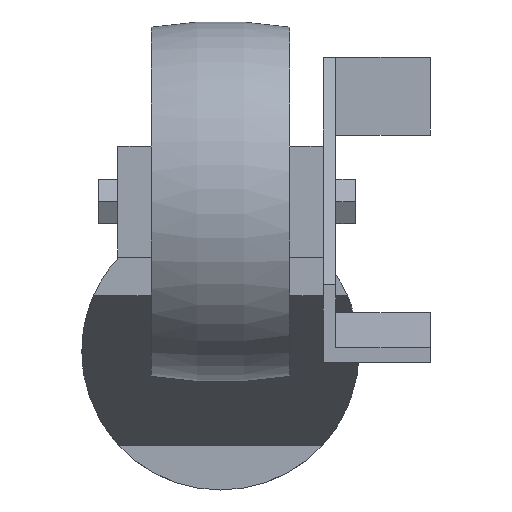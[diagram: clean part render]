
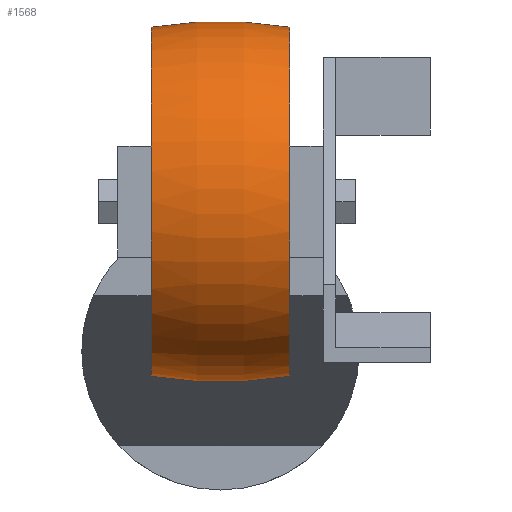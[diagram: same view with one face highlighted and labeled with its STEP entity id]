
A CAD part, front view. The second image highlights one B-rep face of the part: STEP entity #1568.
In plain terms, the highlighted toroidal (fillet/blend) face has major radius 42.5 mm and minor radius 75 mm.
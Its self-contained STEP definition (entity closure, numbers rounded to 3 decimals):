
#16 = CARTESIAN_POINT ( 'NONE',  ( 12.5, -58.5, 58.451 ) ) ;
#25 = DIRECTION ( 'NONE',  ( 0., 0., 1. ) ) ;
#65 = CARTESIAN_POINT ( 'NONE',  ( 12.5, -58.5, -4.451 ) ) ;
#74 = VERTEX_POINT ( 'NONE', #1036 ) ;
#165 = DIRECTION ( 'NONE',  ( 0., 1., 0. ) ) ;
#172 = EDGE_CURVE ( 'NONE', #1554, #74, #1517, .T. ) ;
#195 = CARTESIAN_POINT ( 'NONE',  ( 0., -58.5, 27. ) ) ;
#226 = ORIENTED_EDGE ( 'NONE', *, *, #230, .T. ) ;
#230 = EDGE_CURVE ( 'NONE', #558, #1487, #1719, .T. ) ;
#256 = DIRECTION ( 'NONE',  ( -1., 0., 0. ) ) ;
#464 = DIRECTION ( 'NONE',  ( 0., 0., -1. ) ) ;
#489 = ORIENTED_EDGE ( 'NONE', *, *, #172, .F. ) ;
#498 = DIRECTION ( 'NONE',  ( 0., 0., 1. ) ) ;
#558 = VERTEX_POINT ( 'NONE', #16 ) ;
#590 = FACE_OUTER_BOUND ( 'NONE', #1383, .T. ) ;
#633 = DIRECTION ( 'NONE',  ( 0., 0., 1. ) ) ;
#664 = AXIS2_PLACEMENT_3D ( 'NONE', #1203, #1333, #498 ) ;
#687 = AXIS2_PLACEMENT_3D ( 'NONE', #195, #256, #633 ) ;
#741 = CARTESIAN_POINT ( 'NONE',  ( 0., -58.5, -15.5 ) ) ;
#778 = AXIS2_PLACEMENT_3D ( 'NONE', #1279, #905, #1153 ) ;
#853 = AXIS2_PLACEMENT_3D ( 'NONE', #741, #1378, #464 ) ;
#905 = DIRECTION ( 'NONE',  ( -1., 0., 0. ) ) ;
#939 = AXIS2_PLACEMENT_3D ( 'NONE', #1225, #165, #25 ) ;
#1036 = CARTESIAN_POINT ( 'NONE',  ( -12.5, -58.5, -4.451 ) ) ;
#1153 = DIRECTION ( 'NONE',  ( 0., 0., 1. ) ) ;
#1158 = EDGE_CURVE ( 'NONE', #74, #1487, #1728, .T. ) ;
#1203 = CARTESIAN_POINT ( 'NONE',  ( 12.5, -58.5, 27. ) ) ;
#1225 = CARTESIAN_POINT ( 'NONE',  ( 0., -58.5, 69.5 ) ) ;
#1226 = CIRCLE ( 'NONE', #664, 31.451 ) ;
#1279 = CARTESIAN_POINT ( 'NONE',  ( -12.5, -58.5, 27. ) ) ;
#1333 = DIRECTION ( 'NONE',  ( -1., 0., 0. ) ) ;
#1375 = ORIENTED_EDGE ( 'NONE', *, *, #1652, .T. ) ;
#1378 = DIRECTION ( 'NONE',  ( 0., -1., 0. ) ) ;
#1383 = EDGE_LOOP ( 'NONE', ( #489, #1375, #226, #1619 ) ) ;
#1401 = CARTESIAN_POINT ( 'NONE',  ( -12.5, -58.5, 58.451 ) ) ;
#1451 = TOROIDAL_SURFACE ( 'NONE', #687, -42.5, 75. ) ;
#1487 = VERTEX_POINT ( 'NONE', #1401 ) ;
#1517 = CIRCLE ( 'NONE', #939, 75. ) ;
#1554 = VERTEX_POINT ( 'NONE', #65 ) ;
#1568 = ADVANCED_FACE ( 'NONE', ( #590 ), #1451, .T. ) ;
#1619 = ORIENTED_EDGE ( 'NONE', *, *, #1158, .F. ) ;
#1652 = EDGE_CURVE ( 'NONE', #1554, #558, #1226, .T. ) ;
#1719 = CIRCLE ( 'NONE', #853, 75. ) ;
#1728 = CIRCLE ( 'NONE', #778, 31.451 ) ;
